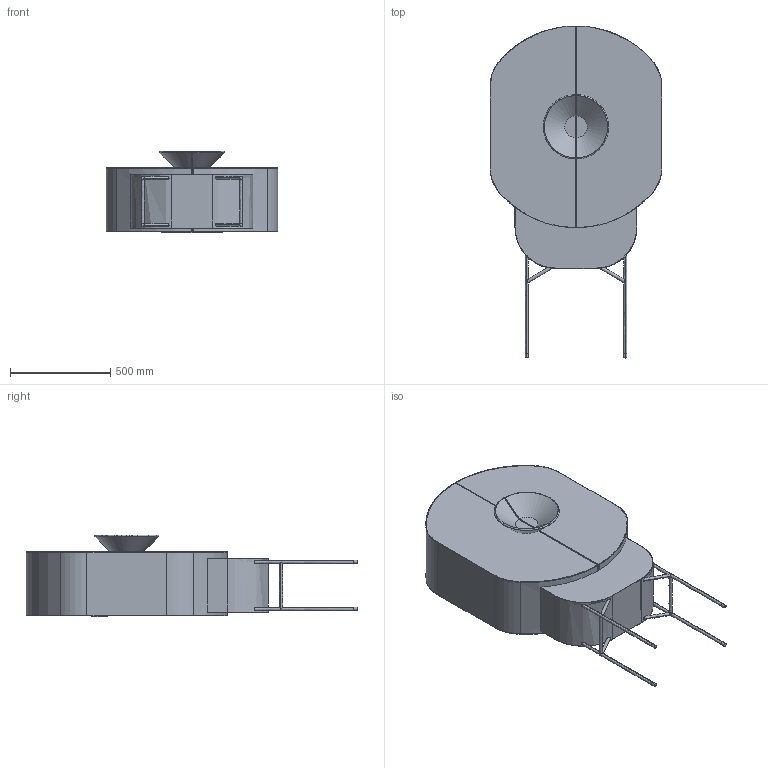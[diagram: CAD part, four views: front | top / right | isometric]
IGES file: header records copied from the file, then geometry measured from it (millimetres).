
Start section: SolidWorks IGES file using analytic representation for surfaces
Global section: file name: \\UTENTI\Dati Utenti\Tecnico\DC\2D - 3D per sito\3D\DeCastelli-3D-Polifemo.igs; native system: SolidWorks 2022; preprocessor: SolidWorks 2022; author: maria; date: 240723.165426; units: millimetre
Bounding box: 855 x 1651.77 x 406.11 mm (x, y, z)
Surface area: 6269385.1 mm2 (no closed solid volume)
Topology: 0 solids, 0 shells, 222 faces, 4440 edges, 4440 vertices
Faces by surface type: revolution 135, bspline 87
